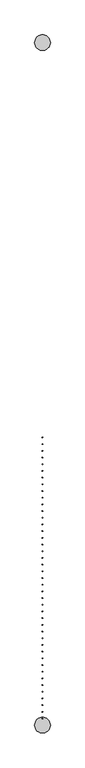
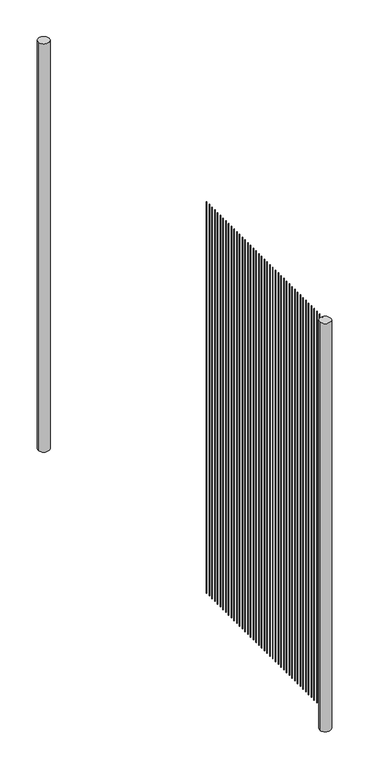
"""IFC4 building model written with IfcOpenShell, lengths in millimetres: railing geometry, Ballfangzaun."""

from ifc_helpers import new_model, si_unit, point, frame, frame_2d, origin, origin_with_axes, place, context, project, spatial, circle_curve, trimmed, segment, composite_curve, outline, extrude, source, transform, mapped, element, save


def railing_e28421ba(model_context):
    return source(origin(), model_context, "Body", "SweptSolid", [
        extrude(outline(composite_curve([segment(trimmed(circle_curve(frame_2d((50902.2484531, -34143.2068989)), 1.5), [point((50900.7484531, -34143.2068989))], [point((50903.7484531, -34143.2068989))], False, "CARTESIAN"), True, "CONTINUOUS"), segment(trimmed(circle_curve(frame_2d((50902.2484531, -34143.2068989)), 1.5), [point((50903.7484531, -34143.2068989))], [point((50900.7484531, -34143.2068989))], False, "CARTESIAN"), True, "CONTINUOUS")], self_intersect=False)), frame((0.0, 0.0, 130.0), z_axis=(0.0, 0.0, 1.0), x_axis=(1.0, 0.0, 0.0)), (0.0, 0.0, 1.0), 2970.0),
        extrude(outline(composite_curve([segment(trimmed(circle_curve(frame_2d((50902.2484531, -34177.5206244)), 1.5), [point((50900.7484531, -34177.5206244))], [point((50903.7484531, -34177.5206244))], False, "CARTESIAN"), True, "CONTINUOUS"), segment(trimmed(circle_curve(frame_2d((50902.2484531, -34177.5206244)), 1.5), [point((50903.7484531, -34177.5206244))], [point((50900.7484531, -34177.5206244))], False, "CARTESIAN"), True, "CONTINUOUS")], self_intersect=False)), frame((0.0, 0.0, 130.0), z_axis=(0.0, 0.0, 1.0), x_axis=(1.0, 0.0, 0.0)), (0.0, 0.0, 1.0), 2970.0),
        extrude(outline(composite_curve([segment(trimmed(circle_curve(frame_2d((50902.2484531, -34211.8343499)), 1.5), [point((50900.7484531, -34211.8343499))], [point((50903.7484531, -34211.8343499))], False, "CARTESIAN"), True, "CONTINUOUS"), segment(trimmed(circle_curve(frame_2d((50902.2484531, -34211.8343499)), 1.5), [point((50903.7484531, -34211.8343499))], [point((50900.7484531, -34211.8343499))], False, "CARTESIAN"), True, "CONTINUOUS")], self_intersect=False)), frame((0.0, 0.0, 130.0), z_axis=(0.0, 0.0, 1.0), x_axis=(1.0, 0.0, 0.0)), (0.0, 0.0, 1.0), 2970.0),
        extrude(outline(composite_curve([segment(trimmed(circle_curve(frame_2d((50902.2484531, -34246.1480754)), 1.5), [point((50900.7484531, -34246.1480754))], [point((50903.7484531, -34246.1480754))], False, "CARTESIAN"), True, "CONTINUOUS"), segment(trimmed(circle_curve(frame_2d((50902.2484531, -34246.1480754)), 1.5), [point((50903.7484531, -34246.1480754))], [point((50900.7484531, -34246.1480754))], False, "CARTESIAN"), True, "CONTINUOUS")], self_intersect=False)), frame((0.0, 0.0, 130.0), z_axis=(0.0, 0.0, 1.0), x_axis=(1.0, 0.0, 0.0)), (0.0, 0.0, 1.0), 2970.0),
        extrude(outline(composite_curve([segment(trimmed(circle_curve(frame_2d((50902.2484531, -34280.4618008)), 1.5), [point((50900.7484531, -34280.4618008))], [point((50903.7484531, -34280.4618008))], False, "CARTESIAN"), True, "CONTINUOUS"), segment(trimmed(circle_curve(frame_2d((50902.2484531, -34280.4618008)), 1.5), [point((50903.7484531, -34280.4618008))], [point((50900.7484531, -34280.4618008))], False, "CARTESIAN"), True, "CONTINUOUS")], self_intersect=False)), frame((0.0, 0.0, 130.0), z_axis=(0.0, 0.0, 1.0), x_axis=(1.0, 0.0, 0.0)), (0.0, 0.0, 1.0), 2970.0),
        extrude(outline(composite_curve([segment(trimmed(circle_curve(frame_2d((50902.2484531, -34314.7755263)), 1.5), [point((50900.7484531, -34314.7755263))], [point((50903.7484531, -34314.7755263))], False, "CARTESIAN"), True, "CONTINUOUS"), segment(trimmed(circle_curve(frame_2d((50902.2484531, -34314.7755263)), 1.5), [point((50903.7484531, -34314.7755263))], [point((50900.7484531, -34314.7755263))], False, "CARTESIAN"), True, "CONTINUOUS")], self_intersect=False)), frame((0.0, 0.0, 130.0), z_axis=(0.0, 0.0, 1.0), x_axis=(1.0, 0.0, 0.0)), (0.0, 0.0, 1.0), 2970.0),
        extrude(outline(composite_curve([segment(trimmed(circle_curve(frame_2d((50902.2484531, -34349.0892518)), 1.5), [point((50900.7484531, -34349.0892518))], [point((50903.7484531, -34349.0892518))], False, "CARTESIAN"), True, "CONTINUOUS"), segment(trimmed(circle_curve(frame_2d((50902.2484531, -34349.0892518)), 1.5), [point((50903.7484531, -34349.0892518))], [point((50900.7484531, -34349.0892518))], False, "CARTESIAN"), True, "CONTINUOUS")], self_intersect=False)), frame((0.0, 0.0, 130.0), z_axis=(0.0, 0.0, 1.0), x_axis=(1.0, 0.0, 0.0)), (0.0, 0.0, 1.0), 2970.0),
        extrude(outline(composite_curve([segment(trimmed(circle_curve(frame_2d((50902.2484531, -34383.4029773)), 1.5), [point((50900.7484531, -34383.4029773))], [point((50903.7484531, -34383.4029773))], False, "CARTESIAN"), True, "CONTINUOUS"), segment(trimmed(circle_curve(frame_2d((50902.2484531, -34383.4029773)), 1.5), [point((50903.7484531, -34383.4029773))], [point((50900.7484531, -34383.4029773))], False, "CARTESIAN"), True, "CONTINUOUS")], self_intersect=False)), frame((0.0, 0.0, 130.0), z_axis=(0.0, 0.0, 1.0), x_axis=(1.0, 0.0, 0.0)), (0.0, 0.0, 1.0), 2970.0),
        extrude(outline(composite_curve([segment(trimmed(circle_curve(frame_2d((50902.2484531, -34417.7167028)), 1.5), [point((50900.7484531, -34417.7167028))], [point((50903.7484531, -34417.7167028))], False, "CARTESIAN"), True, "CONTINUOUS"), segment(trimmed(circle_curve(frame_2d((50902.2484531, -34417.7167028)), 1.5), [point((50903.7484531, -34417.7167028))], [point((50900.7484531, -34417.7167028))], False, "CARTESIAN"), True, "CONTINUOUS")], self_intersect=False)), frame((0.0, 0.0, 130.0), z_axis=(0.0, 0.0, 1.0), x_axis=(1.0, 0.0, 0.0)), (0.0, 0.0, 1.0), 2970.0),
        extrude(outline(composite_curve([segment(trimmed(circle_curve(frame_2d((50902.2484531, -34452.0304283)), 1.5), [point((50900.7484531, -34452.0304283))], [point((50903.7484531, -34452.0304283))], False, "CARTESIAN"), True, "CONTINUOUS"), segment(trimmed(circle_curve(frame_2d((50902.2484531, -34452.0304283)), 1.5), [point((50903.7484531, -34452.0304283))], [point((50900.7484531, -34452.0304283))], False, "CARTESIAN"), True, "CONTINUOUS")], self_intersect=False)), frame((0.0, 0.0, 130.0), z_axis=(0.0, 0.0, 1.0), x_axis=(1.0, 0.0, 0.0)), (0.0, 0.0, 1.0), 2970.0),
        extrude(outline(composite_curve([segment(trimmed(circle_curve(frame_2d((50902.2484531, -34486.3441538)), 1.5), [point((50900.7484531, -34486.3441538))], [point((50903.7484531, -34486.3441538))], False, "CARTESIAN"), True, "CONTINUOUS"), segment(trimmed(circle_curve(frame_2d((50902.2484531, -34486.3441538)), 1.5), [point((50903.7484531, -34486.3441538))], [point((50900.7484531, -34486.3441538))], False, "CARTESIAN"), True, "CONTINUOUS")], self_intersect=False)), frame((0.0, 0.0, 130.0), z_axis=(0.0, 0.0, 1.0), x_axis=(1.0, 0.0, 0.0)), (0.0, 0.0, 1.0), 2970.0),
        extrude(outline(composite_curve([segment(trimmed(circle_curve(frame_2d((50902.2484531, -34520.6578793)), 1.5), [point((50900.7484531, -34520.6578793))], [point((50903.7484531, -34520.6578793))], False, "CARTESIAN"), True, "CONTINUOUS"), segment(trimmed(circle_curve(frame_2d((50902.2484531, -34520.6578793)), 1.5), [point((50903.7484531, -34520.6578793))], [point((50900.7484531, -34520.6578793))], False, "CARTESIAN"), True, "CONTINUOUS")], self_intersect=False)), frame((0.0, 0.0, 130.0), z_axis=(0.0, 0.0, 1.0), x_axis=(1.0, 0.0, 0.0)), (0.0, 0.0, 1.0), 2970.0),
        extrude(outline(composite_curve([segment(trimmed(circle_curve(frame_2d((50902.2484531, -34554.9716048)), 1.5), [point((50900.7484531, -34554.9716048))], [point((50903.7484531, -34554.9716048))], False, "CARTESIAN"), True, "CONTINUOUS"), segment(trimmed(circle_curve(frame_2d((50902.2484531, -34554.9716048)), 1.5), [point((50903.7484531, -34554.9716048))], [point((50900.7484531, -34554.9716048))], False, "CARTESIAN"), True, "CONTINUOUS")], self_intersect=False)), frame((0.0, 0.0, 130.0), z_axis=(0.0, 0.0, 1.0), x_axis=(1.0, 0.0, 0.0)), (0.0, 0.0, 1.0), 2970.0),
        extrude(outline(composite_curve([segment(trimmed(circle_curve(frame_2d((50902.2484531, -34589.2853303)), 1.5), [point((50900.7484531, -34589.2853303))], [point((50903.7484531, -34589.2853303))], False, "CARTESIAN"), True, "CONTINUOUS"), segment(trimmed(circle_curve(frame_2d((50902.2484531, -34589.2853303)), 1.5), [point((50903.7484531, -34589.2853303))], [point((50900.7484531, -34589.2853303))], False, "CARTESIAN"), True, "CONTINUOUS")], self_intersect=False)), frame((0.0, 0.0, 130.0), z_axis=(0.0, 0.0, 1.0), x_axis=(1.0, 0.0, 0.0)), (0.0, 0.0, 1.0), 2970.0),
        extrude(outline(composite_curve([segment(trimmed(circle_curve(frame_2d((50902.2484531, -34623.5990557)), 1.5), [point((50900.7484531, -34623.5990557))], [point((50903.7484531, -34623.5990557))], False, "CARTESIAN"), True, "CONTINUOUS"), segment(trimmed(circle_curve(frame_2d((50902.2484531, -34623.5990557)), 1.5), [point((50903.7484531, -34623.5990557))], [point((50900.7484531, -34623.5990557))], False, "CARTESIAN"), True, "CONTINUOUS")], self_intersect=False)), frame((0.0, 0.0, 130.0), z_axis=(0.0, 0.0, 1.0), x_axis=(1.0, 0.0, 0.0)), (0.0, 0.0, 1.0), 2970.0),
        extrude(outline(composite_curve([segment(trimmed(circle_curve(frame_2d((50902.2484531, -34657.9127812)), 1.5), [point((50900.7484531, -34657.9127812))], [point((50903.7484531, -34657.9127812))], False, "CARTESIAN"), True, "CONTINUOUS"), segment(trimmed(circle_curve(frame_2d((50902.2484531, -34657.9127812)), 1.5), [point((50903.7484531, -34657.9127812))], [point((50900.7484531, -34657.9127812))], False, "CARTESIAN"), True, "CONTINUOUS")], self_intersect=False)), frame((0.0, 0.0, 130.0), z_axis=(0.0, 0.0, 1.0), x_axis=(1.0, 0.0, 0.0)), (0.0, 0.0, 1.0), 2970.0),
        extrude(outline(composite_curve([segment(trimmed(circle_curve(frame_2d((50902.2484531, -34692.2265067)), 1.5), [point((50900.7484531, -34692.2265067))], [point((50903.7484531, -34692.2265067))], False, "CARTESIAN"), True, "CONTINUOUS"), segment(trimmed(circle_curve(frame_2d((50902.2484531, -34692.2265067)), 1.5), [point((50903.7484531, -34692.2265067))], [point((50900.7484531, -34692.2265067))], False, "CARTESIAN"), True, "CONTINUOUS")], self_intersect=False)), frame((0.0, 0.0, 130.0), z_axis=(0.0, 0.0, 1.0), x_axis=(1.0, 0.0, 0.0)), (0.0, 0.0, 1.0), 2970.0),
        extrude(outline(composite_curve([segment(trimmed(circle_curve(frame_2d((50902.2484531, -34726.5402322)), 1.5), [point((50900.7484531, -34726.5402322))], [point((50903.7484531, -34726.5402322))], False, "CARTESIAN"), True, "CONTINUOUS"), segment(trimmed(circle_curve(frame_2d((50902.2484531, -34726.5402322)), 1.5), [point((50903.7484531, -34726.5402322))], [point((50900.7484531, -34726.5402322))], False, "CARTESIAN"), True, "CONTINUOUS")], self_intersect=False)), frame((0.0, 0.0, 130.0), z_axis=(0.0, 0.0, 1.0), x_axis=(1.0, 0.0, 0.0)), (0.0, 0.0, 1.0), 2970.0),
        extrude(outline(composite_curve([segment(trimmed(circle_curve(frame_2d((50902.2484531, -34760.8539577)), 1.5), [point((50900.7484531, -34760.8539577))], [point((50903.7484531, -34760.8539577))], False, "CARTESIAN"), True, "CONTINUOUS"), segment(trimmed(circle_curve(frame_2d((50902.2484531, -34760.8539577)), 1.5), [point((50903.7484531, -34760.8539577))], [point((50900.7484531, -34760.8539577))], False, "CARTESIAN"), True, "CONTINUOUS")], self_intersect=False)), frame((0.0, 0.0, 130.0), z_axis=(0.0, 0.0, 1.0), x_axis=(1.0, 0.0, 0.0)), (0.0, 0.0, 1.0), 2970.0),
        extrude(outline(composite_curve([segment(trimmed(circle_curve(frame_2d((50902.2484531, -34795.1676832)), 1.5), [point((50900.7484531, -34795.1676832))], [point((50903.7484531, -34795.1676832))], False, "CARTESIAN"), True, "CONTINUOUS"), segment(trimmed(circle_curve(frame_2d((50902.2484531, -34795.1676832)), 1.5), [point((50903.7484531, -34795.1676832))], [point((50900.7484531, -34795.1676832))], False, "CARTESIAN"), True, "CONTINUOUS")], self_intersect=False)), frame((0.0, 0.0, 130.0), z_axis=(0.0, 0.0, 1.0), x_axis=(1.0, 0.0, 0.0)), (0.0, 0.0, 1.0), 2970.0),
        extrude(outline(composite_curve([segment(trimmed(circle_curve(frame_2d((50902.2484531, -34829.4814087)), 1.5), [point((50900.7484531, -34829.4814087))], [point((50903.7484531, -34829.4814087))], False, "CARTESIAN"), True, "CONTINUOUS"), segment(trimmed(circle_curve(frame_2d((50902.2484531, -34829.4814087)), 1.5), [point((50903.7484531, -34829.4814087))], [point((50900.7484531, -34829.4814087))], False, "CARTESIAN"), True, "CONTINUOUS")], self_intersect=False)), frame((0.0, 0.0, 130.0), z_axis=(0.0, 0.0, 1.0), x_axis=(1.0, 0.0, 0.0)), (0.0, 0.0, 1.0), 2970.0),
        extrude(outline(composite_curve([segment(trimmed(circle_curve(frame_2d((50902.2484531, -34863.7951342)), 1.5), [point((50900.7484531, -34863.7951342))], [point((50903.7484531, -34863.7951342))], False, "CARTESIAN"), True, "CONTINUOUS"), segment(trimmed(circle_curve(frame_2d((50902.2484531, -34863.7951342)), 1.5), [point((50903.7484531, -34863.7951342))], [point((50900.7484531, -34863.7951342))], False, "CARTESIAN"), True, "CONTINUOUS")], self_intersect=False)), frame((0.0, 0.0, 130.0), z_axis=(0.0, 0.0, 1.0), x_axis=(1.0, 0.0, 0.0)), (0.0, 0.0, 1.0), 2970.0),
        extrude(outline(composite_curve([segment(trimmed(circle_curve(frame_2d((50902.2484531, -34898.1088597)), 1.5), [point((50900.7484531, -34898.1088597))], [point((50903.7484531, -34898.1088597))], False, "CARTESIAN"), True, "CONTINUOUS"), segment(trimmed(circle_curve(frame_2d((50902.2484531, -34898.1088597)), 1.5), [point((50903.7484531, -34898.1088597))], [point((50900.7484531, -34898.1088597))], False, "CARTESIAN"), True, "CONTINUOUS")], self_intersect=False)), frame((0.0, 0.0, 130.0), z_axis=(0.0, 0.0, 1.0), x_axis=(1.0, 0.0, 0.0)), (0.0, 0.0, 1.0), 2970.0),
        extrude(outline(composite_curve([segment(trimmed(circle_curve(frame_2d((50902.2484531, -34932.4225852)), 1.5), [point((50900.7484531, -34932.4225852))], [point((50903.7484531, -34932.4225852))], False, "CARTESIAN"), True, "CONTINUOUS"), segment(trimmed(circle_curve(frame_2d((50902.2484531, -34932.4225852)), 1.5), [point((50903.7484531, -34932.4225852))], [point((50900.7484531, -34932.4225852))], False, "CARTESIAN"), True, "CONTINUOUS")], self_intersect=False)), frame((0.0, 0.0, 130.0), z_axis=(0.0, 0.0, 1.0), x_axis=(1.0, 0.0, 0.0)), (0.0, 0.0, 1.0), 2970.0),
        extrude(outline(composite_curve([segment(trimmed(circle_curve(frame_2d((50902.2484531, -34966.7363106)), 1.5), [point((50900.7484531, -34966.7363106))], [point((50903.7484531, -34966.7363106))], False, "CARTESIAN"), True, "CONTINUOUS"), segment(trimmed(circle_curve(frame_2d((50902.2484531, -34966.7363106)), 1.5), [point((50903.7484531, -34966.7363106))], [point((50900.7484531, -34966.7363106))], False, "CARTESIAN"), True, "CONTINUOUS")], self_intersect=False)), frame((0.0, 0.0, 130.0), z_axis=(0.0, 0.0, 1.0), x_axis=(1.0, 0.0, 0.0)), (0.0, 0.0, 1.0), 2970.0),
        extrude(outline(composite_curve([segment(trimmed(circle_curve(frame_2d((50902.2484531, -35001.0500361)), 1.5), [point((50900.7484531, -35001.0500361))], [point((50903.7484531, -35001.0500361))], False, "CARTESIAN"), True, "CONTINUOUS"), segment(trimmed(circle_curve(frame_2d((50902.2484531, -35001.0500361)), 1.5), [point((50903.7484531, -35001.0500361))], [point((50900.7484531, -35001.0500361))], False, "CARTESIAN"), True, "CONTINUOUS")], self_intersect=False)), frame((0.0, 0.0, 130.0), z_axis=(0.0, 0.0, 1.0), x_axis=(1.0, 0.0, 0.0)), (0.0, 0.0, 1.0), 2970.0),
        extrude(outline(composite_curve([segment(trimmed(circle_curve(frame_2d((50902.2484531, -35035.3637616)), 1.5), [point((50900.7484531, -35035.3637616))], [point((50903.7484531, -35035.3637616))], False, "CARTESIAN"), True, "CONTINUOUS"), segment(trimmed(circle_curve(frame_2d((50902.2484531, -35035.3637616)), 1.5), [point((50903.7484531, -35035.3637616))], [point((50900.7484531, -35035.3637616))], False, "CARTESIAN"), True, "CONTINUOUS")], self_intersect=False)), frame((0.0, 0.0, 130.0), z_axis=(0.0, 0.0, 1.0), x_axis=(1.0, 0.0, 0.0)), (0.0, 0.0, 1.0), 2970.0),
        extrude(outline(composite_curve([segment(trimmed(circle_curve(frame_2d((50902.2484531, -35069.6774871)), 1.5), [point((50900.7484531, -35069.6774871))], [point((50903.7484531, -35069.6774871))], False, "CARTESIAN"), True, "CONTINUOUS"), segment(trimmed(circle_curve(frame_2d((50902.2484531, -35069.6774871)), 1.5), [point((50903.7484531, -35069.6774871))], [point((50900.7484531, -35069.6774871))], False, "CARTESIAN"), True, "CONTINUOUS")], self_intersect=False)), frame((0.0, 0.0, 130.0), z_axis=(0.0, 0.0, 1.0), x_axis=(1.0, 0.0, 0.0)), (0.0, 0.0, 1.0), 2970.0),
        extrude(outline(composite_curve([segment(trimmed(circle_curve(frame_2d((50902.2484531, -35103.9912126)), 1.5), [point((50900.7484531, -35103.9912126))], [point((50903.7484531, -35103.9912126))], False, "CARTESIAN"), True, "CONTINUOUS"), segment(trimmed(circle_curve(frame_2d((50902.2484531, -35103.9912126)), 1.5), [point((50903.7484531, -35103.9912126))], [point((50900.7484531, -35103.9912126))], False, "CARTESIAN"), True, "CONTINUOUS")], self_intersect=False)), frame((0.0, 0.0, 130.0), z_axis=(0.0, 0.0, 1.0), x_axis=(1.0, 0.0, 0.0)), (0.0, 0.0, 1.0), 2970.0),
        extrude(outline(composite_curve([segment(trimmed(circle_curve(frame_2d((50902.2484531, -35138.3049381)), 1.5), [point((50900.7484531, -35138.3049381))], [point((50903.7484531, -35138.3049381))], False, "CARTESIAN"), True, "CONTINUOUS"), segment(trimmed(circle_curve(frame_2d((50902.2484531, -35138.3049381)), 1.5), [point((50903.7484531, -35138.3049381))], [point((50900.7484531, -35138.3049381))], False, "CARTESIAN"), True, "CONTINUOUS")], self_intersect=False)), frame((0.0, 0.0, 130.0), z_axis=(0.0, 0.0, 1.0), x_axis=(1.0, 0.0, 0.0)), (0.0, 0.0, 1.0), 2970.0),
        extrude(outline(composite_curve([segment(trimmed(circle_curve(frame_2d((50902.2484531, -35172.6186636)), 1.5), [point((50900.7484531, -35172.6186636))], [point((50903.7484531, -35172.6186636))], False, "CARTESIAN"), True, "CONTINUOUS"), segment(trimmed(circle_curve(frame_2d((50902.2484531, -35172.6186636)), 1.5), [point((50903.7484531, -35172.6186636))], [point((50900.7484531, -35172.6186636))], False, "CARTESIAN"), True, "CONTINUOUS")], self_intersect=False)), frame((0.0, 0.0, 130.0), z_axis=(0.0, 0.0, 1.0), x_axis=(1.0, 0.0, 0.0)), (0.0, 0.0, 1.0), 2970.0),
        extrude(outline(composite_curve([segment(trimmed(circle_curve(frame_2d((50902.2484531, -35206.9323891)), 1.5), [point((50900.7484531, -35206.9323891))], [point((50903.7484531, -35206.9323891))], False, "CARTESIAN"), True, "CONTINUOUS"), segment(trimmed(circle_curve(frame_2d((50902.2484531, -35206.9323891)), 1.5), [point((50903.7484531, -35206.9323891))], [point((50900.7484531, -35206.9323891))], False, "CARTESIAN"), True, "CONTINUOUS")], self_intersect=False)), frame((0.0, 0.0, 130.0), z_axis=(0.0, 0.0, 1.0), x_axis=(1.0, 0.0, 0.0)), (0.0, 0.0, 1.0), 2970.0),
        extrude(outline(composite_curve([segment(trimmed(circle_curve(frame_2d((50902.2484531, -35241.2461146)), 1.5), [point((50900.7484531, -35241.2461146))], [point((50903.7484531, -35241.2461146))], False, "CARTESIAN"), True, "CONTINUOUS"), segment(trimmed(circle_curve(frame_2d((50902.2484531, -35241.2461146)), 1.5), [point((50903.7484531, -35241.2461146))], [point((50900.7484531, -35241.2461146))], False, "CARTESIAN"), True, "CONTINUOUS")], self_intersect=False)), frame((0.0, 0.0, 130.0), z_axis=(0.0, 0.0, 1.0), x_axis=(1.0, 0.0, 0.0)), (0.0, 0.0, 1.0), 2970.0),
        extrude(outline(composite_curve([segment(trimmed(circle_curve(frame_2d((50902.2484531, -35275.5598401)), 1.5), [point((50900.7484531, -35275.5598401))], [point((50903.7484531, -35275.5598401))], False, "CARTESIAN"), True, "CONTINUOUS"), segment(trimmed(circle_curve(frame_2d((50902.2484531, -35275.5598401)), 1.5), [point((50903.7484531, -35275.5598401))], [point((50900.7484531, -35275.5598401))], False, "CARTESIAN"), True, "CONTINUOUS")], self_intersect=False)), frame((0.0, 0.0, 130.0), z_axis=(0.0, 0.0, 1.0), x_axis=(1.0, 0.0, 0.0)), (0.0, 0.0, 1.0), 2970.0),
        extrude(outline(composite_curve([segment(trimmed(circle_curve(frame_2d((50902.2484531, -35309.8735655)), 1.5), [point((50900.7484531, -35309.8735655))], [point((50903.7484531, -35309.8735655))], False, "CARTESIAN"), True, "CONTINUOUS"), segment(trimmed(circle_curve(frame_2d((50902.2484531, -35309.8735655)), 1.5), [point((50903.7484531, -35309.8735655))], [point((50900.7484531, -35309.8735655))], False, "CARTESIAN"), True, "CONTINUOUS")], self_intersect=False)), frame((0.0, 0.0, 130.0), z_axis=(0.0, 0.0, 1.0), x_axis=(1.0, 0.0, 0.0)), (0.0, 0.0, 1.0), 2970.0),
        extrude(outline(composite_curve([segment(trimmed(circle_curve(frame_2d((50902.2484531, -35344.187291)), 1.5), [point((50900.7484531, -35344.187291))], [point((50903.7484531, -35344.187291))], False, "CARTESIAN"), True, "CONTINUOUS"), segment(trimmed(circle_curve(frame_2d((50902.2484531, -35344.187291)), 1.5), [point((50903.7484531, -35344.187291))], [point((50900.7484531, -35344.187291))], False, "CARTESIAN"), True, "CONTINUOUS")], self_intersect=False)), frame((0.0, 0.0, 130.0), z_axis=(0.0, 0.0, 1.0), x_axis=(1.0, 0.0, 0.0)), (0.0, 0.0, 1.0), 2970.0),
        extrude(outline(composite_curve([segment(trimmed(circle_curve(frame_2d((50902.2484531, -35378.5010165)), 1.5), [point((50900.7484531, -35378.5010165))], [point((50903.7484531, -35378.5010165))], False, "CARTESIAN"), True, "CONTINUOUS"), segment(trimmed(circle_curve(frame_2d((50902.2484531, -35378.5010165)), 1.5), [point((50903.7484531, -35378.5010165))], [point((50900.7484531, -35378.5010165))], False, "CARTESIAN"), True, "CONTINUOUS")], self_intersect=False)), frame((0.0, 0.0, 130.0), z_axis=(0.0, 0.0, 1.0), x_axis=(1.0, 0.0, 0.0)), (0.0, 0.0, 1.0), 2970.0),
        extrude(outline(composite_curve([segment(trimmed(circle_curve(frame_2d((50902.2484531, -35412.814742)), 1.5), [point((50900.7484531, -35412.814742))], [point((50903.7484531, -35412.814742))], False, "CARTESIAN"), True, "CONTINUOUS"), segment(trimmed(circle_curve(frame_2d((50902.2484531, -35412.814742)), 1.5), [point((50903.7484531, -35412.814742))], [point((50900.7484531, -35412.814742))], False, "CARTESIAN"), True, "CONTINUOUS")], self_intersect=False)), frame((0.0, 0.0, 130.0), z_axis=(0.0, 0.0, 1.0), x_axis=(1.0, 0.0, 0.0)), (0.0, 0.0, 1.0), 2970.0),
        extrude(outline(composite_curve([segment(trimmed(circle_curve(frame_2d((50902.2484531, -35447.1284675)), 1.5), [point((50900.7484531, -35447.1284675))], [point((50903.7484531, -35447.1284675))], False, "CARTESIAN"), True, "CONTINUOUS"), segment(trimmed(circle_curve(frame_2d((50902.2484531, -35447.1284675)), 1.5), [point((50903.7484531, -35447.1284675))], [point((50900.7484531, -35447.1284675))], False, "CARTESIAN"), True, "CONTINUOUS")], self_intersect=False)), frame((0.0, 0.0, 130.0), z_axis=(0.0, 0.0, 1.0), x_axis=(1.0, 0.0, 0.0)), (0.0, 0.0, 1.0), 2970.0),
        extrude(outline(composite_curve([segment(trimmed(circle_curve(frame_2d((50902.2484531, -35481.442193)), 1.5), [point((50900.7484531, -35481.442193))], [point((50903.7484531, -35481.442193))], False, "CARTESIAN"), True, "CONTINUOUS"), segment(trimmed(circle_curve(frame_2d((50902.2484531, -35481.442193)), 1.5), [point((50903.7484531, -35481.442193))], [point((50900.7484531, -35481.442193))], False, "CARTESIAN"), True, "CONTINUOUS")], self_intersect=False)), frame((0.0, 0.0, 130.0), z_axis=(0.0, 0.0, 1.0), x_axis=(1.0, 0.0, 0.0)), (0.0, 0.0, 1.0), 2970.0),
        extrude(outline(composite_curve([segment(trimmed(circle_curve(frame_2d((50902.2484531, -35515.7559185)), 1.5), [point((50900.7484531, -35515.7559185))], [point((50903.7484531, -35515.7559185))], False, "CARTESIAN"), True, "CONTINUOUS"), segment(trimmed(circle_curve(frame_2d((50902.2484531, -35515.7559185)), 1.5), [point((50903.7484531, -35515.7559185))], [point((50900.7484531, -35515.7559185))], False, "CARTESIAN"), True, "CONTINUOUS")], self_intersect=False)), frame((0.0, 0.0, 130.0), z_axis=(0.0, 0.0, 1.0), x_axis=(1.0, 0.0, 0.0)), (0.0, 0.0, 1.0), 2970.0),
        extrude(outline(composite_curve([segment(trimmed(circle_curve(frame_2d((50902.2484531, -35550.069644)), 1.5), [point((50900.7484531, -35550.069644))], [point((50903.7484531, -35550.069644))], False, "CARTESIAN"), True, "CONTINUOUS"), segment(trimmed(circle_curve(frame_2d((50902.2484531, -35550.069644)), 1.5), [point((50903.7484531, -35550.069644))], [point((50900.7484531, -35550.069644))], False, "CARTESIAN"), True, "CONTINUOUS")], self_intersect=False)), frame((0.0, 0.0, 130.0), z_axis=(0.0, 0.0, 1.0), x_axis=(1.0, 0.0, 0.0)), (0.0, 0.0, 1.0), 2970.0),
        extrude(outline(composite_curve([segment(trimmed(circle_curve(frame_2d((50902.2484531, -35584.3833695)), 1.5), [point((50900.7484531, -35584.3833695))], [point((50903.7484531, -35584.3833695))], False, "CARTESIAN"), True, "CONTINUOUS"), segment(trimmed(circle_curve(frame_2d((50902.2484531, -35584.3833695)), 1.5), [point((50903.7484531, -35584.3833695))], [point((50900.7484531, -35584.3833695))], False, "CARTESIAN"), True, "CONTINUOUS")], self_intersect=False)), frame((0.0, 0.0, 130.0), z_axis=(0.0, 0.0, 1.0), x_axis=(1.0, 0.0, 0.0)), (0.0, 0.0, 1.0), 2970.0),
        extrude(outline(composite_curve([segment(trimmed(circle_curve(frame_2d((50902.2484531, -32118.697095)), 40.0), [point((50862.2484531, -32118.697095))], [point((50942.2484531, -32118.697095))], False, "CARTESIAN"), True, "CONTINUOUS"), segment(trimmed(circle_curve(frame_2d((50902.2484531, -32118.697095)), 40.0), [point((50942.2484531, -32118.697095))], [point((50862.2484531, -32118.697095))], False, "CARTESIAN"), True, "CONTINUOUS")], self_intersect=False)), origin_with_axes(), (0.0, 0.0, 1.0), 3097.0),
        extrude(outline(composite_curve([segment(trimmed(circle_curve(frame_2d((50902.2484531, -35618.697095)), 40.0), [point((50862.2484531, -35618.697095))], [point((50942.2484531, -35618.697095))], False, "CARTESIAN"), True, "CONTINUOUS"), segment(trimmed(circle_curve(frame_2d((50902.2484531, -35618.697095)), 40.0), [point((50942.2484531, -35618.697095))], [point((50862.2484531, -35618.697095))], False, "CARTESIAN"), True, "CONTINUOUS")], self_intersect=False)), origin_with_axes(), (0.0, 0.0, 1.0), 3097.0),
    ])


if __name__ == "__main__":
    model = new_model("IFC4")
    model_context = context("Model", 3, world=origin())
    ifc_project = project(units=[si_unit("LENGTHUNIT", "METRE", prefix="MILLI")], contexts=[model_context])
    site = spatial("IfcSite", under=ifc_project)
    building = spatial("IfcBuilding", under=site)
    placement = place(None, origin())
    railing_shape = railing_e28421ba(model_context)
    element("IfcRailing", 1, ObjectType="Ballfangzaun", at=placement, inside=building, context=model_context, shape_type="MappedRepresentation", body=[
        mapped(railing_shape, transform((0.0, 0.0, 0.0), x_axis=(1.0, 0.0, 0.0), y_axis=(0.0, 1.0, 0.0), z_axis=(0.0, 0.0, 1.0))),
    ])
    save(model, "model.ifc")
